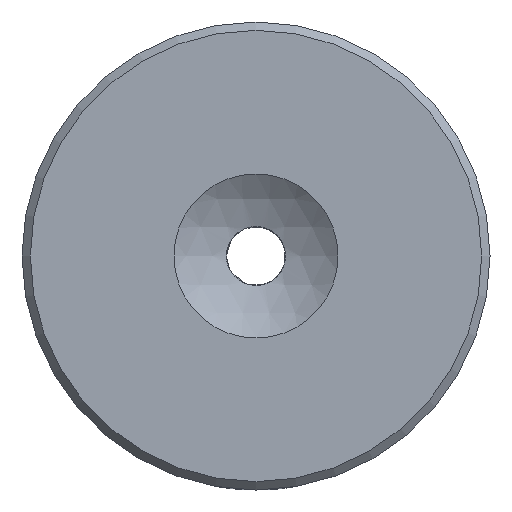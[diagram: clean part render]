
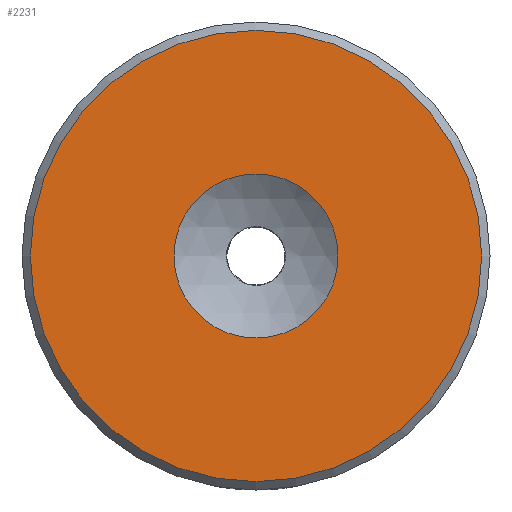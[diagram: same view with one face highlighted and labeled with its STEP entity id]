
A CAD part, front view. The second image highlights one B-rep face of the part: STEP entity #2231.
In plain terms, the highlighted planar face has unit normal (0, -1, 0).
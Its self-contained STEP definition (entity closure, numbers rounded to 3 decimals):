
#52 = CIRCLE ( 'NONE', #3170, 4.905 ) ;
#252 = CARTESIAN_POINT ( 'NONE',  ( 0., 0., 0. ) ) ;
#383 = EDGE_LOOP ( 'NONE', ( #2149 ) ) ;
#400 = EDGE_LOOP ( 'NONE', ( #439 ) ) ;
#439 = ORIENTED_EDGE ( 'NONE', *, *, #1354, .T. ) ;
#604 = CARTESIAN_POINT ( 'NONE',  ( 0., 0., 0. ) ) ;
#607 = FACE_BOUND ( 'NONE', #383, .T. ) ;
#836 = PLANE ( 'NONE',  #3130 ) ;
#969 = CARTESIAN_POINT ( 'NONE',  ( 0., 0., 13.5 ) ) ;
#998 = CARTESIAN_POINT ( 'NONE',  ( 0., 0., 4.905 ) ) ;
#1218 = DIRECTION ( 'NONE',  ( 0., -1., 0. ) ) ;
#1354 = EDGE_CURVE ( 'NONE', #3235, #3235, #1520, .T. ) ;
#1520 = CIRCLE ( 'NONE', #1832, 13.5 ) ;
#1577 = DIRECTION ( 'NONE',  ( 0., 0., 1. ) ) ;
#1600 = DIRECTION ( 'NONE',  ( 0., 1., 0. ) ) ;
#1812 = DIRECTION ( 'NONE',  ( 0., 0., 1. ) ) ;
#1832 = AXIS2_PLACEMENT_3D ( 'NONE', #604, #2837, #1577 ) ;
#2149 = ORIENTED_EDGE ( 'NONE', *, *, #2590, .F. ) ;
#2231 = ADVANCED_FACE ( 'NONE', ( #2346, #607 ), #836, .F. ) ;
#2346 = FACE_OUTER_BOUND ( 'NONE', #400, .T. ) ;
#2590 = EDGE_CURVE ( 'NONE', #3266, #3266, #52, .T. ) ;
#2596 = CARTESIAN_POINT ( 'NONE',  ( 0., 0., 0. ) ) ;
#2837 = DIRECTION ( 'NONE',  ( 0., -1., 0. ) ) ;
#3028 = DIRECTION ( 'NONE',  ( 0., 0., 1. ) ) ;
#3130 = AXIS2_PLACEMENT_3D ( 'NONE', #2596, #1600, #1812 ) ;
#3170 = AXIS2_PLACEMENT_3D ( 'NONE', #252, #1218, #3028 ) ;
#3235 = VERTEX_POINT ( 'NONE', #969 ) ;
#3266 = VERTEX_POINT ( 'NONE', #998 ) ;
